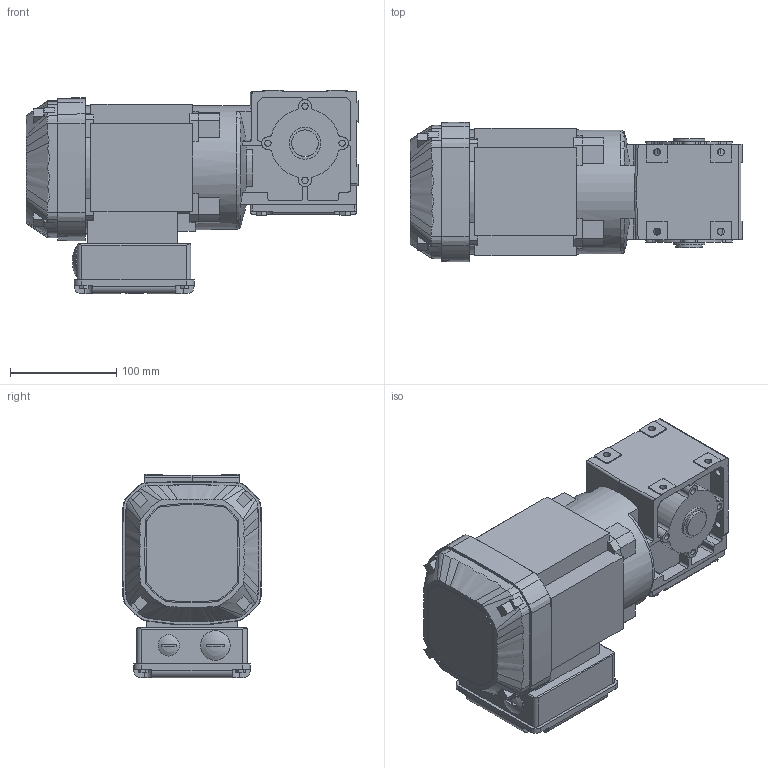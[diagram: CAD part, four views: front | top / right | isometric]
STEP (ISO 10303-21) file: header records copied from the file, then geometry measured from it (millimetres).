
FILE_DESCRIPTION(/* description */ ('SEW WA20 WITH MOTOR 0,25kW'),/* implementation_level */ '2;1');
FILE_NAME(/* name */ 'C:\Users\mikael.ljungberg\OneDrive - Carryline AB\Skrivbordet\Tillfalliga_filer\900-4025.stp',/* time_stamp */ '2021-04-22T08:37:25+02:00',/* author */ ('ML'),/* organization */ ('CARRYLINE'),/* preprocessor_version */ 'ST-DEVELOPER v18.1',/* originating_system */ 'Autodesk Inventor 2020',/* authorisation */ 'ML');
FILE_SCHEMA (('AUTOMOTIVE_DESIGN { 1 0 10303 214 3 1 1 }'));
Length unit declared in the file: millimetre
Products named in the file (1): 900-4025
Bounding box: 313.2 x 131.82 x 192 mm (x, y, z)
Volume: 4195737 mm3; surface area: 241072.3 mm2
Topology: 1 solids, 3 shells, 736 faces, 2084 edges, 1387 vertices
Faces by surface type: plane 373, cylinder 290, cone 37, bspline 33, sphere 2, torus 1
Full cylindrical faces by diameter (mm): 6 x9, 6.6 x8, 20 x1, 25 x1, 28 x1, 30 x2, 117 x1
Entity records: 26338 total; most frequent: CARTESIAN_POINT 6757, ORIENTED_EDGE 4166, DIRECTION 4109, EDGE_CURVE 2083, AXIS2_PLACEMENT_3D 1440, VERTEX_POINT 1387, LINE 1229, VECTOR 1229
